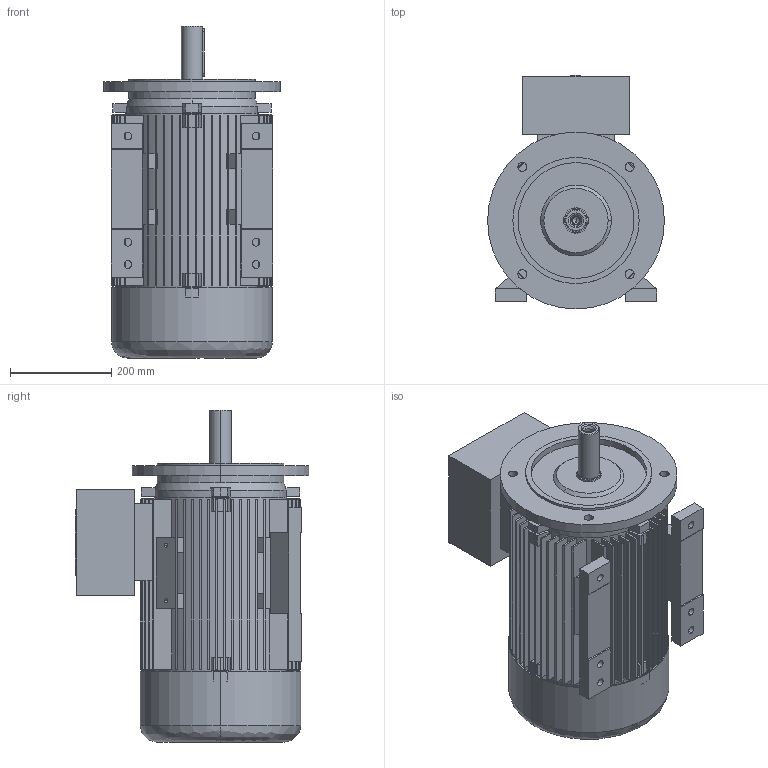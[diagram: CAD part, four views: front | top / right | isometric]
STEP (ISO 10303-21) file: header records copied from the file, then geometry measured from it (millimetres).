
FILE_DESCRIPTION (( 'STEP AP203' ), '1' );
FILE_NAME ('20.18369_C 7AZ 160 M&L B35 STANDK.STEP', '2018-05-15T10:13:11', ( '' ), ( '' ), 'SwSTEP 2.0', 'SolidWorks 2017', '' );
FILE_SCHEMA (( 'CONFIG_CONTROL_DESIGN' ));
Length unit declared in the file: millimetre
Products named in the file (1): 20.18369_C 7AZ 160 M&L B35 STANDK
Bounding box: 350 x 463 x 657 mm (x, y, z)
Volume: 17459775.6 mm3; surface area: 2824456.6 mm2
Topology: 15 solids, 15 shells, 769 faces, 2074 edges, 1363 vertices
Faces by surface type: plane 531, cylinder 187, cone 38, bspline 13
Entity records: 24908 total; most frequent: CARTESIAN_POINT 5074, DIRECTION 4172, ORIENTED_EDGE 4112, EDGE_CURVE 2056, AXIS2_PLACEMENT_3D 1401, LINE 1370, VECTOR 1370, VERTEX_POINT 1363
